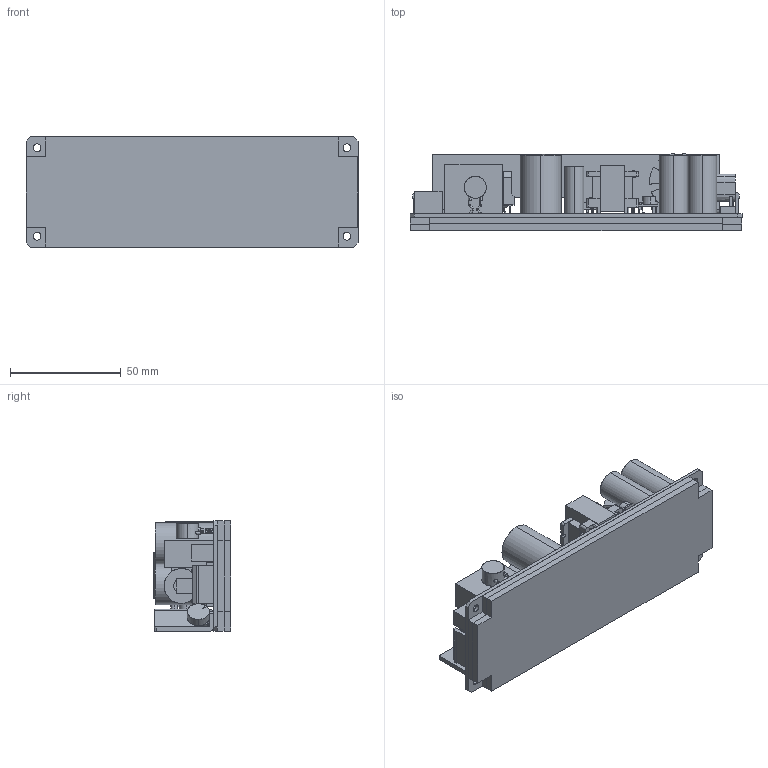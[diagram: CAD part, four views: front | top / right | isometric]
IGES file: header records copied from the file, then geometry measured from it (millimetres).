
Start section: SolidWorks IGES file using analytic representation for surfaces
Global section: file name: C:\vs75e_outline.IGS; native system: SolidWorks 2010; preprocessor: SolidWorks 2010; author: 00946hada; date: 100716.121126; units: millimetre
Bounding box: 150 x 35 x 50 mm (x, y, z)
Surface area: 69137.2 mm2 (no closed solid volume)
Topology: 0 solids, 0 shells, 1212 faces, 12325 edges, 12298 vertices
Faces by surface type: bspline 818, revolution 394
